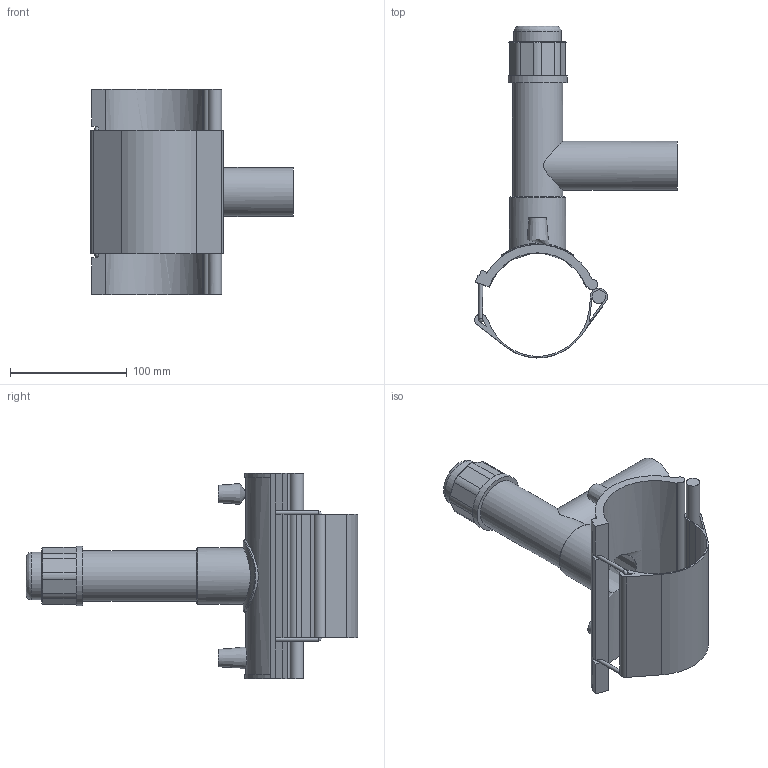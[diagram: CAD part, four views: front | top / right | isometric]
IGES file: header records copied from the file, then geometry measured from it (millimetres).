
Global section: file name: 5913BB03030013.ipt; native system: Autodesk Inventor 2019; preprocessor: unknown; author: KIM; date: 20210830.101033; units: millimetre
Bounding box: 173.98 x 284.84 x 176.02 mm (x, y, z)
Volume: 426946.3 mm3; surface area: 169035.5 mm2
Topology: 2 solids, 2 shells, 124 faces, 314 edges, 195 vertices
Faces by surface type: plane 69, cylinder 29, revolution 12, cone 11, bspline 3
Full cylindrical faces by diameter (mm): 3.193 x2, 4 x2, 11.531 x1, 40.731 x1, 42.1 x1, 43.277 x1, 48.368 x1, 50.914 x1, 62.09 x1
